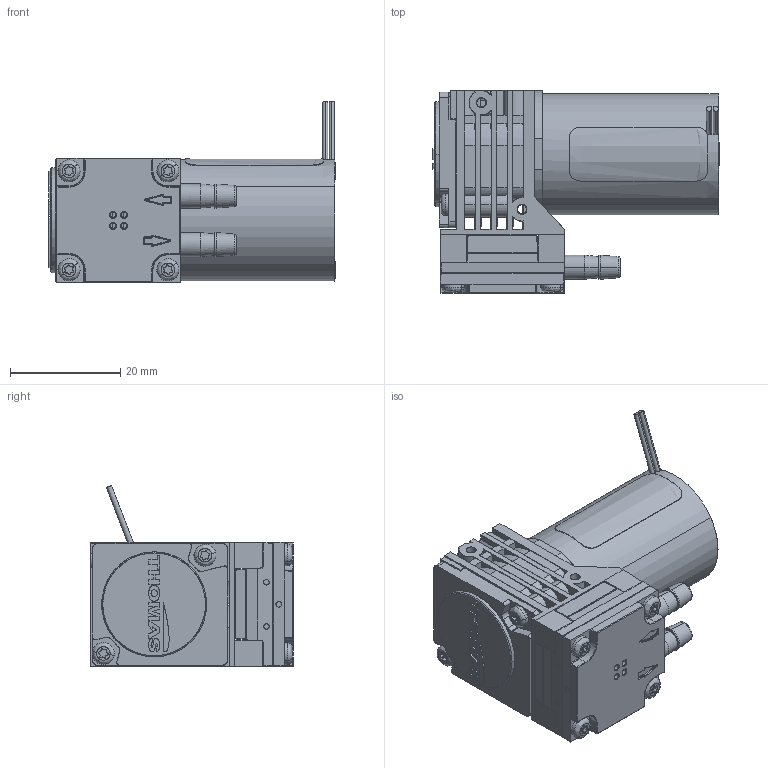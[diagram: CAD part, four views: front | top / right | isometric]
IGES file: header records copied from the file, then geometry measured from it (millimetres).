
Start section: SolidWorks IGES file using analytic representation for surfaces
Global section: file name: C:\SWPDM\GDT\Germany\600 User Files\Michael Buchberger Files\CAD_Model Homepage\1210 DC HP Hose Barbs\1210 DC HP Hose Barbs.IGS; native system: SolidWorks 2020; preprocessor: SolidWorks 2020; author: MXB6966; date: 220124.150342; units: millimetre
Bounding box: 51.85 x 36.71 x 32.77 mm (x, y, z)
Surface area: 9202.9 mm2 (no closed solid volume)
Topology: 0 solids, 0 shells, 1041 faces, 11113 edges, 11112 vertices
Faces by surface type: bspline 638, revolution 403
